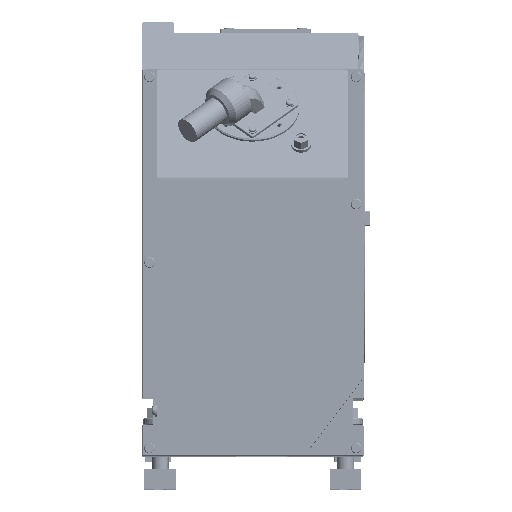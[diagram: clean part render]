
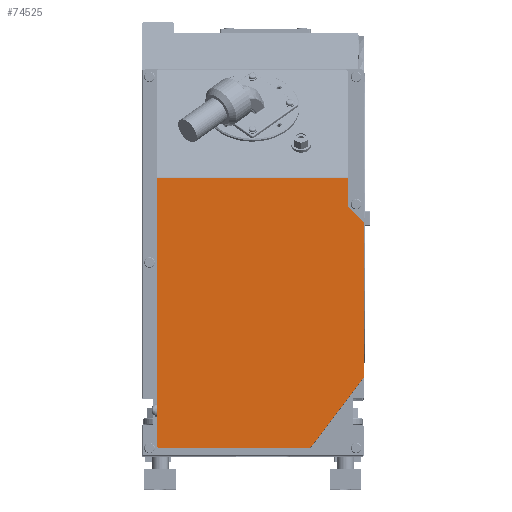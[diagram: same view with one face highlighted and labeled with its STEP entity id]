
A CAD part, top view. The second image highlights one B-rep face of the part: STEP entity #74525.
In plain terms, the highlighted planar face has unit normal (0, 0, 1).
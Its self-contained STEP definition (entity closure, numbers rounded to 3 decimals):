
#57 = DIRECTION ( 'NONE',  ( 0., 0., 1. ) ) ;
#695 = DIRECTION ( 'NONE',  ( -1., 0., 0. ) ) ;
#3143 = VECTOR ( 'NONE', #113800, 1000. ) ;
#5881 = CARTESIAN_POINT ( 'NONE',  ( 206., 73.672, 220. ) ) ;
#9773 = DIRECTION ( 'NONE',  ( 0., 0., 1. ) ) ;
#11229 = CARTESIAN_POINT ( 'NONE',  ( 208., 73.672, 220. ) ) ;
#11925 = AXIS2_PLACEMENT_3D ( 'NONE', #21639, #57, #151369 ) ;
#13285 = EDGE_CURVE ( 'NONE', #99607, #14328, #148199, .T. ) ;
#14328 = VERTEX_POINT ( 'NONE', #44925 ) ;
#14506 = DIRECTION ( 'NONE',  ( 0., 0., -1. ) ) ;
#14759 = EDGE_CURVE ( 'NONE', #96684, #62120, #76791, .T. ) ;
#14999 = VECTOR ( 'NONE', #145156, 1000. ) ;
#16208 = DIRECTION ( 'NONE',  ( -1., 0., 0. ) ) ;
#17519 = CARTESIAN_POINT ( 'NONE',  ( 15., 261.172, 220. ) ) ;
#17694 = CARTESIAN_POINT ( 'NONE',  ( 207.594, 72.464, 220. ) ) ;
#20420 = CIRCLE ( 'NONE', #123265, 2. ) ;
#21639 = CARTESIAN_POINT ( 'NONE',  ( 15., 9., 220. ) ) ;
#23764 = DIRECTION ( 'NONE',  ( 0., 0., 1. ) ) ;
#24793 = EDGE_CURVE ( 'NONE', #103114, #59647, #136631, .T. ) ;
#25119 = ORIENTED_EDGE ( 'NONE', *, *, #54660, .T. ) ;
#26775 = DIRECTION ( 'NONE',  ( 1., 0., 0. ) ) ;
#27458 = CARTESIAN_POINT ( 'NONE',  ( 193., 235.828, 220. ) ) ;
#27728 = PLANE ( 'NONE',  #94740 ) ;
#28363 = VECTOR ( 'NONE', #77963, 1000. ) ;
#29059 = VECTOR ( 'NONE', #49536, 1000. ) ;
#29065 = CARTESIAN_POINT ( 'NONE',  ( 15., 7., 220. ) ) ;
#29463 = ORIENTED_EDGE ( 'NONE', *, *, #14759, .T. ) ;
#30680 = ORIENTED_EDGE ( 'NONE', *, *, #83520, .T. ) ;
#31474 = CARTESIAN_POINT ( 'NONE',  ( 208., 219.172, 220. ) ) ;
#34610 = DIRECTION ( 'NONE',  ( 0., 1., 0. ) ) ;
#35046 = VERTEX_POINT ( 'NONE', #125104 ) ;
#39260 = DIRECTION ( 'NONE',  ( 0., 0., -1. ) ) ;
#40574 = DIRECTION ( 'NONE',  ( -1., 0., 0. ) ) ;
#41216 = EDGE_CURVE ( 'NONE', #35046, #99607, #104445, .T. ) ;
#42770 = DIRECTION ( 'NONE',  ( -1., 0., 0. ) ) ;
#42925 = ORIENTED_EDGE ( 'NONE', *, *, #143752, .T. ) ;
#44619 = LINE ( 'NONE', #92914, #93563 ) ;
#44925 = CARTESIAN_POINT ( 'NONE',  ( 207.594, 72.464, 220. ) ) ;
#48673 = VERTEX_POINT ( 'NONE', #55713 ) ;
#49157 = ORIENTED_EDGE ( 'NONE', *, *, #135877, .T. ) ;
#49536 = DIRECTION ( 'NONE',  ( 1., 0., 0. ) ) ;
#52380 = CARTESIAN_POINT ( 'NONE',  ( 13., 261.172, 220. ) ) ;
#54660 = EDGE_CURVE ( 'NONE', #123181, #142950, #126053, .T. ) ;
#55032 = DIRECTION ( 'NONE',  ( 0., 0., 1. ) ) ;
#55713 = CARTESIAN_POINT ( 'NONE',  ( 193., 261.172, 220. ) ) ;
#56630 = DIRECTION ( 'NONE',  ( -1., 0., 0. ) ) ;
#59647 = VERTEX_POINT ( 'NONE', #116960 ) ;
#62120 = VERTEX_POINT ( 'NONE', #27458 ) ;
#64595 = CARTESIAN_POINT ( 'NONE',  ( 13., 9., 220. ) ) ;
#65222 = DIRECTION ( 'NONE',  ( 0., 1., 0. ) ) ;
#68871 = ORIENTED_EDGE ( 'NONE', *, *, #102679, .T. ) ;
#69961 = CARTESIAN_POINT ( 'NONE',  ( 13., 9., 220. ) ) ;
#71913 = ORIENTED_EDGE ( 'NONE', *, *, #13285, .T. ) ;
#73300 = LINE ( 'NONE', #83289, #29059 ) ;
#74222 = EDGE_LOOP ( 'NONE', ( #104258, #84454, #25119, #68871, #117455, #78154, #71913, #42925, #147609, #49157, #30680, #29463 ) ) ;
#74525 = ADVANCED_FACE ( 'NONE', ( #144420 ), #27728, .F. ) ;
#74529 = CARTESIAN_POINT ( 'NONE',  ( 15., 362., 220. ) ) ;
#74576 = VECTOR ( 'NONE', #65222, 1000. ) ;
#76003 = CARTESIAN_POINT ( 'NONE',  ( 158.6, 7.792, 220. ) ) ;
#76105 = VERTEX_POINT ( 'NONE', #111207 ) ;
#76791 = CIRCLE ( 'NONE', #125762, 2. ) ;
#77963 = DIRECTION ( 'NONE',  ( -0.707, 0.707, 0. ) ) ;
#78154 = ORIENTED_EDGE ( 'NONE', *, *, #41216, .T. ) ;
#82097 = CARTESIAN_POINT ( 'NONE',  ( 206., 219.172, 220. ) ) ;
#83289 = CARTESIAN_POINT ( 'NONE',  ( 157.006, 7., 220. ) ) ;
#83520 = EDGE_CURVE ( 'NONE', #76105, #96684, #147864, .T. ) ;
#84454 = ORIENTED_EDGE ( 'NONE', *, *, #111753, .T. ) ;
#89888 = CIRCLE ( 'NONE', #143823, 2. ) ;
#92914 = CARTESIAN_POINT ( 'NONE',  ( 193., 362., 220. ) ) ;
#93563 = VECTOR ( 'NONE', #34610, 1000. ) ;
#94740 = AXIS2_PLACEMENT_3D ( 'NONE', #74529, #39260, #16208 ) ;
#94964 = EDGE_CURVE ( 'NONE', #62120, #48673, #44619, .T. ) ;
#96684 = VERTEX_POINT ( 'NONE', #147568 ) ;
#97094 = AXIS2_PLACEMENT_3D ( 'NONE', #114936, #9773, #56630 ) ;
#99607 = VERTEX_POINT ( 'NONE', #76003 ) ;
#102679 = EDGE_CURVE ( 'NONE', #142950, #137150, #151679, .T. ) ;
#103114 = VERTEX_POINT ( 'NONE', #11229 ) ;
#104258 = ORIENTED_EDGE ( 'NONE', *, *, #94964, .T. ) ;
#104445 = CIRCLE ( 'NONE', #97094, 2. ) ;
#111207 = CARTESIAN_POINT ( 'NONE',  ( 207.414, 220.586, 220. ) ) ;
#111753 = EDGE_CURVE ( 'NONE', #48673, #123181, #143475, .T. ) ;
#113800 = DIRECTION ( 'NONE',  ( 0., -1., 0. ) ) ;
#114936 = CARTESIAN_POINT ( 'NONE',  ( 157.006, 9., 220. ) ) ;
#116960 = CARTESIAN_POINT ( 'NONE',  ( 208., 219.172, 220. ) ) ;
#117455 = ORIENTED_EDGE ( 'NONE', *, *, #123843, .T. ) ;
#123181 = VERTEX_POINT ( 'NONE', #52380 ) ;
#123265 = AXIS2_PLACEMENT_3D ( 'NONE', #82097, #23764, #695 ) ;
#123843 = EDGE_CURVE ( 'NONE', #137150, #35046, #73300, .T. ) ;
#125104 = CARTESIAN_POINT ( 'NONE',  ( 157.006, 7., 220. ) ) ;
#125762 = AXIS2_PLACEMENT_3D ( 'NONE', #151411, #14506, #26775 ) ;
#126053 = LINE ( 'NONE', #69961, #3143 ) ;
#135877 = EDGE_CURVE ( 'NONE', #59647, #76105, #20420, .T. ) ;
#136313 = CARTESIAN_POINT ( 'NONE',  ( 193.586, 234.414, 220. ) ) ;
#136631 = LINE ( 'NONE', #31474, #74576 ) ;
#137150 = VERTEX_POINT ( 'NONE', #29065 ) ;
#142950 = VERTEX_POINT ( 'NONE', #64595 ) ;
#143152 = VECTOR ( 'NONE', #40574, 1000. ) ;
#143475 = LINE ( 'NONE', #17519, #143152 ) ;
#143752 = EDGE_CURVE ( 'NONE', #14328, #103114, #89888, .T. ) ;
#143823 = AXIS2_PLACEMENT_3D ( 'NONE', #5881, #55032, #42770 ) ;
#144420 = FACE_OUTER_BOUND ( 'NONE', #74222, .T. ) ;
#145156 = DIRECTION ( 'NONE',  ( 0.604, 0.797, 0. ) ) ;
#147568 = CARTESIAN_POINT ( 'NONE',  ( 193.586, 234.414, 220. ) ) ;
#147609 = ORIENTED_EDGE ( 'NONE', *, *, #24793, .T. ) ;
#147864 = LINE ( 'NONE', #136313, #28363 ) ;
#148199 = LINE ( 'NONE', #17694, #14999 ) ;
#151369 = DIRECTION ( 'NONE',  ( 1., 0., 0. ) ) ;
#151411 = CARTESIAN_POINT ( 'NONE',  ( 195., 235.828, 220. ) ) ;
#151679 = CIRCLE ( 'NONE', #11925, 2. ) ;
